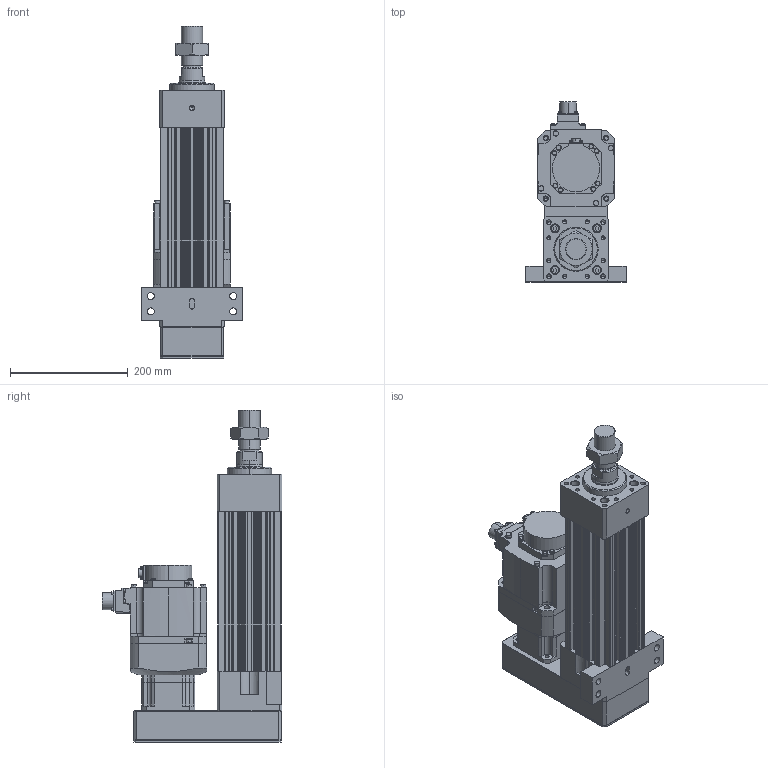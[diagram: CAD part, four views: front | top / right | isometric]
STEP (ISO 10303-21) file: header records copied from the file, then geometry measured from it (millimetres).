
FILE_DESCRIPTION (( 'STEP AP203' ), '1' );
FILE_NAME ('HES110NS(HS)-P100-W010G00-M-FFC.STEP', '2023-01-26T09:51:29', ( 'tms' ), ( '' ), 'SwSTEP 2.0', 'SolidWorks 2013', '' );
FILE_SCHEMA (( 'CONFIG_CONTROL_DESIGN' ));
Length unit declared in the file: millimetre
Products named in the file (8): HES110 ROD M ST100; AB0901; HG-SR102; M36X1.5P; P0401301004; HES110NS(HS)-P100-W010G00-M-FFC; HES110-P100-G090-FFC; AB090-003[HG-SR102B]
Assembly tree (7 placements, depth 3):
  HES110NS(HS)-P100-W010G00-M-FFC
    HES110-P100-G090-FFC
    HES110 ROD M ST100
    M36X1.5P
    AB090-003[HG-SR102B]
      AB0901
      P0401301004
    HG-SR102
Bounding box: 170 x 304.99 x 563 mm (x, y, z)
Volume: 6175199.6 mm3; surface area: 725584.7 mm2
Topology: 4 solids, 11 shells, 1111 faces, 2835 edges, 1826 vertices
Faces by surface type: cylinder 519, plane 486, cone 94, bspline 8, torus 4
Entity records: 35472 total; most frequent: CARTESIAN_POINT 6938, DIRECTION 6110, ORIENTED_EDGE 5574, EDGE_CURVE 2797, AXIS2_PLACEMENT_3D 2269, VERTEX_POINT 1826, LINE 1572, VECTOR 1572
